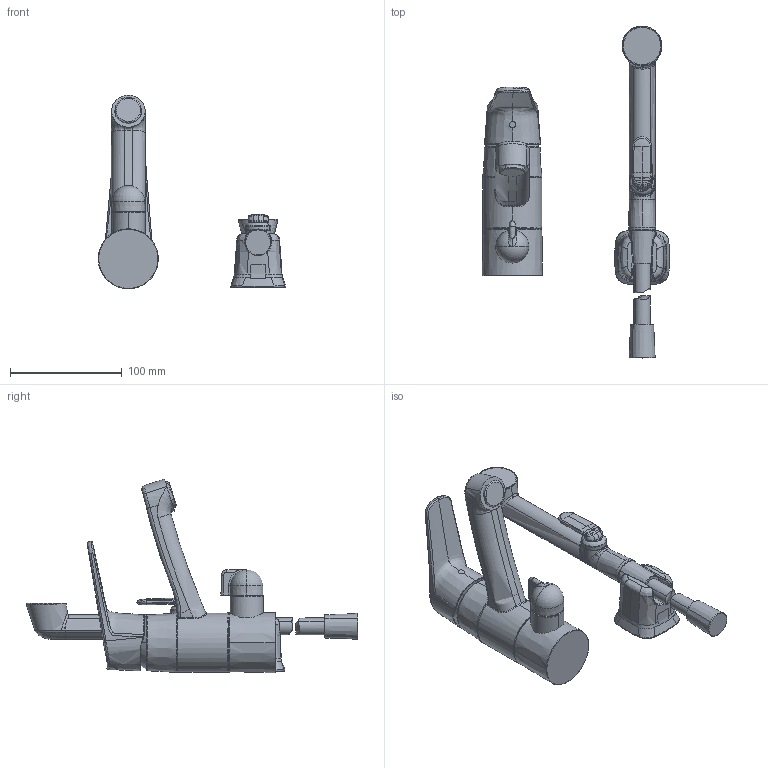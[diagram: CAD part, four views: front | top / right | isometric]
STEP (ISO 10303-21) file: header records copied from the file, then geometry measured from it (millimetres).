
FILE_DESCRIPTION (( 'STEP AP203' ), '1' );
FILE_NAME ('1814FG(2022).STEP', '2023-05-11T10:51:56', ( '' ), ( '' ), 'SwSTEP 2.0', 'SolidWorks 2016', '' );
FILE_SCHEMA (( 'CONFIG_CONTROL_DESIGN' ));
Products named in the file (1): 1814FG(2022)
Bounding box: 167.6 x 296.68 x 173.17 mm (x, y, z)
Volume: 633111.6 mm3; surface area: 101615 mm2
Topology: 13 solids, 13 shells, 455 faces, 1131 edges, 698 vertices
Faces by surface type: bspline 311, cylinder 43, cone 34, torus 33, plane 33, sphere 1
Entity records: 92890 total; most frequent: CARTESIAN_POINT 84759, ORIENTED_EDGE 2244, EDGE_CURVE 1122, DIRECTION 881, VERTEX_POINT 698, B_SPLINE_CURVE_WITH_KNOTS 648, EDGE_LOOP 460, ADVANCED_FACE 455
